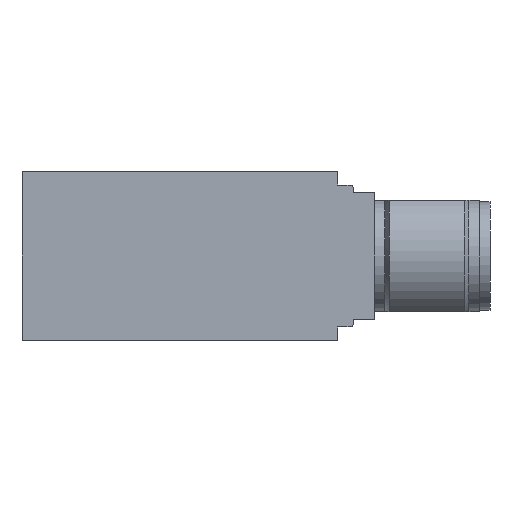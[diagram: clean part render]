
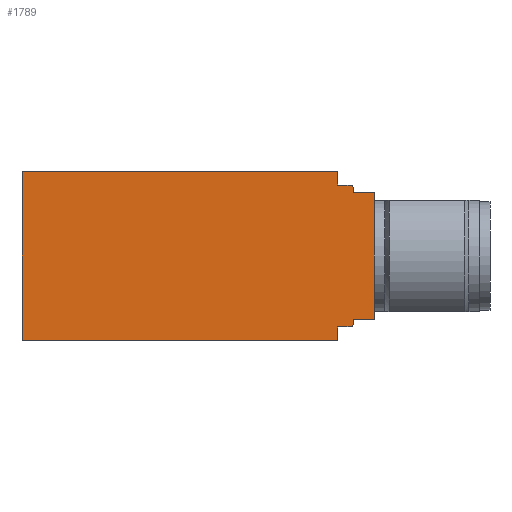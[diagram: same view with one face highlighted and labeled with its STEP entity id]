
A CAD part, front view. The second image highlights one B-rep face of the part: STEP entity #1789.
In plain terms, the highlighted planar face has unit normal (0, -1, 0) as drawn and (0, 0, -1) by its records, which use the part's own axes.
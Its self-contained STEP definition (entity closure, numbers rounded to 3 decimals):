
#51=LINE('',#2728,#169);
#59=LINE('',#2743,#177);
#91=LINE('',#2846,#209);
#107=LINE('',#2891,#225);
#123=LINE('',#2924,#241);
#124=LINE('',#2927,#242);
#125=LINE('',#2931,#243);
#126=LINE('',#2933,#244);
#127=LINE('',#2935,#245);
#128=LINE('',#2937,#246);
#129=LINE('',#2939,#247);
#130=LINE('',#2942,#248);
#169=VECTOR('',#2160,1.25);
#177=VECTOR('',#2168,1.25);
#209=VECTOR('',#2272,30.);
#225=VECTOR('',#2316,16.);
#241=VECTOR('',#2354,30.);
#242=VECTOR('',#2357,1.2);
#243=VECTOR('',#2360,0.45);
#244=VECTOR('',#2361,2.);
#245=VECTOR('',#2362,12.);
#246=VECTOR('',#2363,2.);
#247=VECTOR('',#2364,0.45);
#248=VECTOR('',#2367,1.2);
#325=PLANE('',#1954);
#444=FACE_OUTER_BOUND('',#574,.T.);
#574=EDGE_LOOP('',(#1409,#1410,#1411,#1412,#1413,#1414,#1415,#1416,#1417,
#1418,#1419,#1420,#1421,#1422));
#702=CIRCLE('',#1955,0.3);
#703=CIRCLE('',#1956,0.3);
#782=VERTEX_POINT('',#2720);
#785=VERTEX_POINT('',#2725);
#786=VERTEX_POINT('',#2727);
#793=VERTEX_POINT('',#2741);
#828=VERTEX_POINT('',#2844);
#843=VERTEX_POINT('',#2889);
#850=VERTEX_POINT('',#2926);
#851=VERTEX_POINT('',#2928);
#852=VERTEX_POINT('',#2930);
#853=VERTEX_POINT('',#2932);
#854=VERTEX_POINT('',#2934);
#855=VERTEX_POINT('',#2936);
#856=VERTEX_POINT('',#2938);
#857=VERTEX_POINT('',#2940);
#957=EDGE_CURVE('',#786,#785,#51,.T.);
#965=EDGE_CURVE('',#782,#793,#59,.T.);
#1014=EDGE_CURVE('',#793,#828,#91,.T.);
#1036=EDGE_CURVE('',#843,#828,#107,.T.);
#1053=EDGE_CURVE('',#843,#786,#123,.T.);
#1054=EDGE_CURVE('',#785,#850,#124,.T.);
#1055=EDGE_CURVE('',#850,#851,#702,.T.);
#1056=EDGE_CURVE('',#851,#852,#125,.T.);
#1057=EDGE_CURVE('',#852,#853,#126,.T.);
#1058=EDGE_CURVE('',#854,#853,#127,.T.);
#1059=EDGE_CURVE('',#855,#854,#128,.T.);
#1060=EDGE_CURVE('',#856,#855,#129,.T.);
#1061=EDGE_CURVE('',#857,#856,#703,.T.);
#1062=EDGE_CURVE('',#782,#857,#130,.T.);
#1409=ORIENTED_EDGE('',*,*,#1054,.T.);
#1410=ORIENTED_EDGE('',*,*,#1055,.T.);
#1411=ORIENTED_EDGE('',*,*,#1056,.T.);
#1412=ORIENTED_EDGE('',*,*,#1057,.T.);
#1413=ORIENTED_EDGE('',*,*,#1058,.F.);
#1414=ORIENTED_EDGE('',*,*,#1059,.F.);
#1415=ORIENTED_EDGE('',*,*,#1060,.F.);
#1416=ORIENTED_EDGE('',*,*,#1061,.F.);
#1417=ORIENTED_EDGE('',*,*,#1062,.F.);
#1418=ORIENTED_EDGE('',*,*,#965,.T.);
#1419=ORIENTED_EDGE('',*,*,#1014,.T.);
#1420=ORIENTED_EDGE('',*,*,#1036,.F.);
#1421=ORIENTED_EDGE('',*,*,#1053,.T.);
#1422=ORIENTED_EDGE('',*,*,#957,.T.);
#1789=ADVANCED_FACE('',(#444),#325,.F.);
#1954=AXIS2_PLACEMENT_3D('',#2925,#2355,#2356);
#1955=AXIS2_PLACEMENT_3D('',#2929,#2358,#2359);
#1956=AXIS2_PLACEMENT_3D('',#2941,#2365,#2366);
#2160=DIRECTION('',(0.,-1.,0.));
#2168=DIRECTION('',(0.,-1.,0.));
#2272=DIRECTION('',(-1.,0.,0.));
#2316=DIRECTION('',(0.,-1.,0.));
#2354=DIRECTION('',(1.,0.,0.));
#2355=DIRECTION('center_axis',(0.,0.,1.));
#2356=DIRECTION('ref_axis',(1.,0.,0.));
#2357=DIRECTION('',(1.,0.,0.));
#2358=DIRECTION('center_axis',(0.,0.,-1.));
#2359=DIRECTION('ref_axis',(0.707,0.707,0.));
#2360=DIRECTION('',(0.,-1.,0.));
#2361=DIRECTION('',(1.,0.,0.));
#2362=DIRECTION('',(0.,1.,0.));
#2363=DIRECTION('',(1.,0.,0.));
#2364=DIRECTION('',(0.,1.,0.));
#2365=DIRECTION('center_axis',(0.,0.,1.));
#2366=DIRECTION('ref_axis',(0.707,-0.707,0.));
#2367=DIRECTION('',(1.,0.,0.));
#2720=CARTESIAN_POINT('',(15.,-14.75,-43.));
#2725=CARTESIAN_POINT('',(15.,-1.25,-43.));
#2727=CARTESIAN_POINT('',(15.,0.,-43.));
#2728=CARTESIAN_POINT('',(15.,0.,-43.));
#2741=CARTESIAN_POINT('',(15.,-16.,-43.));
#2743=CARTESIAN_POINT('',(15.,-14.75,-43.));
#2844=CARTESIAN_POINT('',(-15.,-16.,-43.));
#2846=CARTESIAN_POINT('',(15.,-16.,-43.));
#2889=CARTESIAN_POINT('',(-15.,0.,-43.));
#2891=CARTESIAN_POINT('',(-15.,0.,-43.));
#2924=CARTESIAN_POINT('',(-15.,0.,-43.));
#2925=CARTESIAN_POINT('Origin',(1.75,-16.,-43.));
#2926=CARTESIAN_POINT('',(16.2,-1.25,-43.));
#2927=CARTESIAN_POINT('',(15.,-1.25,-43.));
#2928=CARTESIAN_POINT('',(16.5,-1.55,-43.));
#2929=CARTESIAN_POINT('Origin',(16.2,-1.55,-43.));
#2930=CARTESIAN_POINT('',(16.5,-2.,-43.));
#2931=CARTESIAN_POINT('',(16.5,-1.55,-43.));
#2932=CARTESIAN_POINT('',(18.5,-2.,-43.));
#2933=CARTESIAN_POINT('',(16.5,-2.,-43.));
#2934=CARTESIAN_POINT('',(18.5,-14.,-43.));
#2935=CARTESIAN_POINT('',(18.5,-14.,-43.));
#2936=CARTESIAN_POINT('',(16.5,-14.,-43.));
#2937=CARTESIAN_POINT('',(16.5,-14.,-43.));
#2938=CARTESIAN_POINT('',(16.5,-14.45,-43.));
#2939=CARTESIAN_POINT('',(16.5,-14.45,-43.));
#2940=CARTESIAN_POINT('',(16.2,-14.75,-43.));
#2941=CARTESIAN_POINT('Origin',(16.2,-14.45,-43.));
#2942=CARTESIAN_POINT('',(15.,-14.75,-43.));
